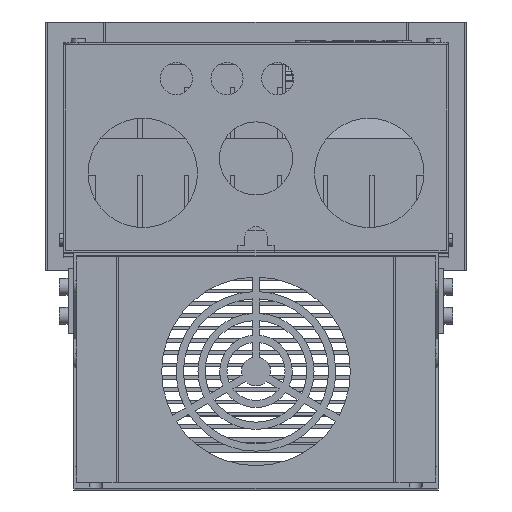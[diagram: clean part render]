
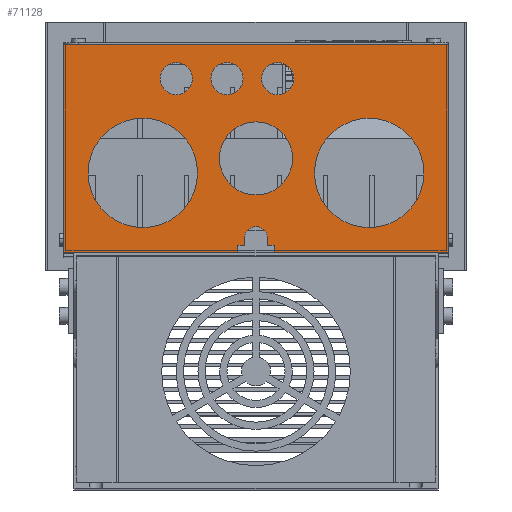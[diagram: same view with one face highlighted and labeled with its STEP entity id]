
A CAD part, top view. The second image highlights one B-rep face of the part: STEP entity #71128.
In plain terms, the highlighted planar face has unit normal (0, 0, 1).
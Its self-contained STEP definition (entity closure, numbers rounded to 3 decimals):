
#67841=DIRECTION('',(1.,0.,0.));
#67842=VECTOR('',#67841,120.);
#67843=CARTESIAN_POINT('',(12.5,0.,0.));
#67844=LINE('',#67843,#67842);
#67857=DIRECTION('',(1.,0.,0.));
#67858=VECTOR('',#67857,120.);
#67859=CARTESIAN_POINT('',(-132.5,0.,0.));
#67860=LINE('',#67859,#67858);
#67879=DIRECTION('',(0.,1.,0.));
#67880=VECTOR('',#67879,5.);
#67881=CARTESIAN_POINT('',(-12.5,0.,0.));
#67882=LINE('',#67881,#67880);
#67895=CARTESIAN_POINT('',(0.,10.,0.));
#67896=DIRECTION('',(0.,0.,1.));
#67897=DIRECTION('',(1.,0.,0.));
#67898=AXIS2_PLACEMENT_3D('',#67895,#67896,#67897);
#67900=DIRECTION('',(0.,-1.,0.));
#67901=VECTOR('',#67900,5.);
#67902=CARTESIAN_POINT('',(-8.,10.,0.));
#67903=LINE('',#67902,#67901);
#67904=DIRECTION('',(-1.,0.,0.));
#67905=VECTOR('',#67904,4.5);
#67906=CARTESIAN_POINT('',(-8.,5.,0.));
#67907=LINE('',#67906,#67905);
#67908=DIRECTION('',(0.,1.,0.));
#67909=VECTOR('',#67908,143.35);
#67910=CARTESIAN_POINT('',(-132.5,0.,0.));
#67911=LINE('',#67910,#67909);
#67912=DIRECTION('',(1.,0.,0.));
#67913=VECTOR('',#67912,265.);
#67914=CARTESIAN_POINT('',(-132.5,143.35,0.));
#67915=LINE('',#67914,#67913);
#67916=DIRECTION('',(0.,1.,0.));
#67917=VECTOR('',#67916,5.);
#67918=CARTESIAN_POINT('',(12.5,0.,0.));
#67919=LINE('',#67918,#67917);
#67920=DIRECTION('',(-1.,0.,0.));
#67921=VECTOR('',#67920,4.5);
#67922=CARTESIAN_POINT('',(12.5,5.,0.));
#67923=LINE('',#67922,#67921);
#67924=DIRECTION('',(0.,1.,0.));
#67925=VECTOR('',#67924,5.);
#67926=CARTESIAN_POINT('',(8.,5.,0.));
#67927=LINE('',#67926,#67925);
#67928=CARTESIAN_POINT('',(78.,55.,0.));
#67929=DIRECTION('',(0.,0.,1.));
#67930=DIRECTION('',(1.,0.,0.));
#67931=AXIS2_PLACEMENT_3D('',#67928,#67929,#67930);
#67933=CARTESIAN_POINT('',(78.,55.,0.));
#67934=DIRECTION('',(0.,0.,1.));
#67935=DIRECTION('',(-1.,0.,0.));
#67936=AXIS2_PLACEMENT_3D('',#67933,#67934,#67935);
#67938=CARTESIAN_POINT('',(15.,120.,0.));
#67939=DIRECTION('',(0.,0.,1.));
#67940=DIRECTION('',(1.,0.,0.));
#67941=AXIS2_PLACEMENT_3D('',#67938,#67939,#67940);
#67943=CARTESIAN_POINT('',(15.,120.,0.));
#67944=DIRECTION('',(0.,0.,1.));
#67945=DIRECTION('',(-1.,0.,0.));
#67946=AXIS2_PLACEMENT_3D('',#67943,#67944,#67945);
#67948=CARTESIAN_POINT('',(-20.,120.,0.));
#67949=DIRECTION('',(0.,0.,1.));
#67950=DIRECTION('',(1.,0.,0.));
#67951=AXIS2_PLACEMENT_3D('',#67948,#67949,#67950);
#67953=CARTESIAN_POINT('',(-20.,120.,0.));
#67954=DIRECTION('',(0.,0.,1.));
#67955=DIRECTION('',(-1.,0.,0.));
#67956=AXIS2_PLACEMENT_3D('',#67953,#67954,#67955);
#67958=CARTESIAN_POINT('',(-55.,120.,0.));
#67959=DIRECTION('',(0.,0.,1.));
#67960=DIRECTION('',(1.,0.,0.));
#67961=AXIS2_PLACEMENT_3D('',#67958,#67959,#67960);
#67963=CARTESIAN_POINT('',(-55.,120.,0.));
#67964=DIRECTION('',(0.,0.,1.));
#67965=DIRECTION('',(-1.,0.,0.));
#67966=AXIS2_PLACEMENT_3D('',#67963,#67964,#67965);
#67968=CARTESIAN_POINT('',(0.,65.,0.));
#67969=DIRECTION('',(0.,0.,1.));
#67970=DIRECTION('',(1.,0.,0.));
#67971=AXIS2_PLACEMENT_3D('',#67968,#67969,#67970);
#67973=CARTESIAN_POINT('',(0.,65.,0.));
#67974=DIRECTION('',(0.,0.,1.));
#67975=DIRECTION('',(-1.,0.,0.));
#67976=AXIS2_PLACEMENT_3D('',#67973,#67974,#67975);
#67978=CARTESIAN_POINT('',(-78.,55.,0.));
#67979=DIRECTION('',(0.,0.,1.));
#67980=DIRECTION('',(1.,0.,0.));
#67981=AXIS2_PLACEMENT_3D('',#67978,#67979,#67980);
#67983=CARTESIAN_POINT('',(-78.,55.,0.));
#67984=DIRECTION('',(0.,0.,1.));
#67985=DIRECTION('',(-1.,0.,0.));
#67986=AXIS2_PLACEMENT_3D('',#67983,#67984,#67985);
#68367=DIRECTION('',(0.,1.,0.));
#68368=VECTOR('',#68367,143.35);
#68369=CARTESIAN_POINT('',(132.5,0.,0.));
#68370=LINE('',#68369,#68368);
#70247=CARTESIAN_POINT('',(12.5,0.,0.));
#70248=VERTEX_POINT('',#70247);
#70249=CARTESIAN_POINT('',(132.5,0.,0.));
#70250=VERTEX_POINT('',#70249);
#70255=CARTESIAN_POINT('',(-132.5,0.,0.));
#70256=VERTEX_POINT('',#70255);
#70257=CARTESIAN_POINT('',(-12.5,0.,0.));
#70258=VERTEX_POINT('',#70257);
#70279=CARTESIAN_POINT('',(-12.5,5.,0.));
#70280=VERTEX_POINT('',#70279);
#70285=CARTESIAN_POINT('',(8.,10.,0.));
#70286=CARTESIAN_POINT('',(-8.,10.,0.));
#70287=VERTEX_POINT('',#70285);
#70288=VERTEX_POINT('',#70286);
#70289=CARTESIAN_POINT('',(-8.,5.,0.));
#70290=VERTEX_POINT('',#70289);
#70291=CARTESIAN_POINT('',(-132.5,143.35,0.));
#70292=VERTEX_POINT('',#70291);
#70293=CARTESIAN_POINT('',(132.5,143.35,0.));
#70294=VERTEX_POINT('',#70293);
#70295=CARTESIAN_POINT('',(12.5,5.,0.));
#70296=VERTEX_POINT('',#70295);
#70297=CARTESIAN_POINT('',(8.,5.,0.));
#70298=VERTEX_POINT('',#70297);
#70299=CARTESIAN_POINT('',(115.7,55.,0.));
#70300=CARTESIAN_POINT('',(40.3,55.,0.));
#70301=VERTEX_POINT('',#70299);
#70302=VERTEX_POINT('',#70300);
#70303=CARTESIAN_POINT('',(26.1,120.,0.));
#70304=CARTESIAN_POINT('',(3.9,120.,0.));
#70305=VERTEX_POINT('',#70303);
#70306=VERTEX_POINT('',#70304);
#70307=CARTESIAN_POINT('',(-8.9,120.,0.));
#70308=CARTESIAN_POINT('',(-31.1,120.,0.));
#70309=VERTEX_POINT('',#70307);
#70310=VERTEX_POINT('',#70308);
#70311=CARTESIAN_POINT('',(-43.9,120.,0.));
#70312=CARTESIAN_POINT('',(-66.1,120.,0.));
#70313=VERTEX_POINT('',#70311);
#70314=VERTEX_POINT('',#70312);
#70315=CARTESIAN_POINT('',(25.2,65.,0.));
#70316=CARTESIAN_POINT('',(-25.2,65.,0.));
#70317=VERTEX_POINT('',#70315);
#70318=VERTEX_POINT('',#70316);
#70319=CARTESIAN_POINT('',(-40.3,55.,0.));
#70320=CARTESIAN_POINT('',(-115.7,55.,0.));
#70321=VERTEX_POINT('',#70319);
#70322=VERTEX_POINT('',#70320);
#71064=CARTESIAN_POINT('',(-132.5,0.,0.));
#71065=DIRECTION('',(0.,0.,1.));
#71066=DIRECTION('',(1.,0.,0.));
#71067=AXIS2_PLACEMENT_3D('',#71064,#71065,#71066);
#71068=PLANE('',#71067);
#71070=ORIENTED_EDGE('',*,*,#71069,.T.);
#71072=ORIENTED_EDGE('',*,*,#71071,.T.);
#71074=ORIENTED_EDGE('',*,*,#71073,.T.);
#71075=ORIENTED_EDGE('',*,*,#71052,.F.);
#71076=ORIENTED_EDGE('',*,*,#71004,.F.);
#71078=ORIENTED_EDGE('',*,*,#71077,.T.);
#71080=ORIENTED_EDGE('',*,*,#71079,.T.);
#71082=ORIENTED_EDGE('',*,*,#71081,.F.);
#71083=ORIENTED_EDGE('',*,*,#70996,.F.);
#71085=ORIENTED_EDGE('',*,*,#71084,.T.);
#71087=ORIENTED_EDGE('',*,*,#71086,.T.);
#71089=ORIENTED_EDGE('',*,*,#71088,.T.);
#71090=EDGE_LOOP('',(#71070,#71072,#71074,#71075,#71076,#71078,#71080,#71082,
#71083,#71085,#71087,#71089));
#71091=FACE_OUTER_BOUND('',#71090,.F.);
#71093=ORIENTED_EDGE('',*,*,#71092,.T.);
#71095=ORIENTED_EDGE('',*,*,#71094,.T.);
#71096=EDGE_LOOP('',(#71093,#71095));
#71097=FACE_BOUND('',#71096,.F.);
#71099=ORIENTED_EDGE('',*,*,#71098,.T.);
#71101=ORIENTED_EDGE('',*,*,#71100,.T.);
#71102=EDGE_LOOP('',(#71099,#71101));
#71103=FACE_BOUND('',#71102,.F.);
#71105=ORIENTED_EDGE('',*,*,#71104,.T.);
#71107=ORIENTED_EDGE('',*,*,#71106,.T.);
#71108=EDGE_LOOP('',(#71105,#71107));
#71109=FACE_BOUND('',#71108,.F.);
#71111=ORIENTED_EDGE('',*,*,#71110,.T.);
#71113=ORIENTED_EDGE('',*,*,#71112,.T.);
#71114=EDGE_LOOP('',(#71111,#71113));
#71115=FACE_BOUND('',#71114,.F.);
#71117=ORIENTED_EDGE('',*,*,#71116,.T.);
#71119=ORIENTED_EDGE('',*,*,#71118,.T.);
#71120=EDGE_LOOP('',(#71117,#71119));
#71121=FACE_BOUND('',#71120,.F.);
#71123=ORIENTED_EDGE('',*,*,#71122,.T.);
#71125=ORIENTED_EDGE('',*,*,#71124,.T.);
#71126=EDGE_LOOP('',(#71123,#71125));
#71127=FACE_BOUND('',#71126,.F.);
#67899=CIRCLE('',#67898,8.);
#67932=CIRCLE('',#67931,37.7);
#67937=CIRCLE('',#67936,37.7);
#67942=CIRCLE('',#67941,11.1);
#67947=CIRCLE('',#67946,11.1);
#67952=CIRCLE('',#67951,11.1);
#67957=CIRCLE('',#67956,11.1);
#67962=CIRCLE('',#67961,11.1);
#67967=CIRCLE('',#67966,11.1);
#67972=CIRCLE('',#67971,25.2);
#67977=CIRCLE('',#67976,25.2);
#67982=CIRCLE('',#67981,37.7);
#67987=CIRCLE('',#67986,37.7);
#70996=EDGE_CURVE('',#70248,#70250,#67844,.T.);
#71004=EDGE_CURVE('',#70256,#70258,#67860,.T.);
#71052=EDGE_CURVE('',#70258,#70280,#67882,.T.);
#71069=EDGE_CURVE('',#70287,#70288,#67899,.T.);
#71071=EDGE_CURVE('',#70288,#70290,#67903,.T.);
#71073=EDGE_CURVE('',#70290,#70280,#67907,.T.);
#71077=EDGE_CURVE('',#70256,#70292,#67911,.T.);
#71079=EDGE_CURVE('',#70292,#70294,#67915,.T.);
#71081=EDGE_CURVE('',#70250,#70294,#68370,.T.);
#71084=EDGE_CURVE('',#70248,#70296,#67919,.T.);
#71086=EDGE_CURVE('',#70296,#70298,#67923,.T.);
#71088=EDGE_CURVE('',#70298,#70287,#67927,.T.);
#71092=EDGE_CURVE('',#70301,#70302,#67932,.T.);
#71094=EDGE_CURVE('',#70302,#70301,#67937,.T.);
#71098=EDGE_CURVE('',#70305,#70306,#67942,.T.);
#71100=EDGE_CURVE('',#70306,#70305,#67947,.T.);
#71104=EDGE_CURVE('',#70309,#70310,#67952,.T.);
#71106=EDGE_CURVE('',#70310,#70309,#67957,.T.);
#71110=EDGE_CURVE('',#70313,#70314,#67962,.T.);
#71112=EDGE_CURVE('',#70314,#70313,#67967,.T.);
#71116=EDGE_CURVE('',#70317,#70318,#67972,.T.);
#71118=EDGE_CURVE('',#70318,#70317,#67977,.T.);
#71122=EDGE_CURVE('',#70321,#70322,#67982,.T.);
#71124=EDGE_CURVE('',#70322,#70321,#67987,.T.);
#71128=ADVANCED_FACE('',(#71091,#71097,#71103,#71109,#71115,#71121,#71127),
#71068,.T.);
